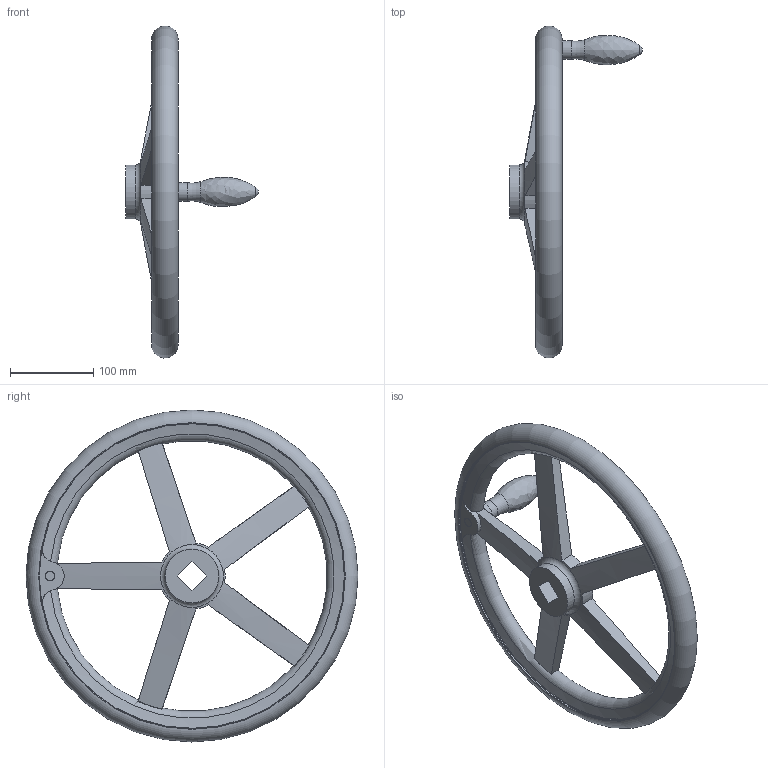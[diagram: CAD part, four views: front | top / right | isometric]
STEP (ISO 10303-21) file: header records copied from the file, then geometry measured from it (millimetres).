
FILE_DESCRIPTION( ( 'STEP AP203' ), '1' );
FILE_NAME( 'C:/Temp/Ganter_Step_05_03_2020/data/1_3/din_950/din_950_v/din_950_v_f/Handwheel DIN 950-AL-400-V24-F.stp', '2020-03-05T10:31:49', ( 'License CC BY-ND 4.0' ), ( 'CADENAS' ), ' ', 'PARTsolutions', ' ' );
FILE_SCHEMA( ( 'CONFIG_CONTROL_DESIGN' ) );
Length unit declared in the file: millimetre
Products named in the file (1): _Handwheel DIN 950-AL-400-V24-F
Bounding box: 159.5 x 399.9 x 399.9 mm (x, y, z)
Volume: 1437937.7 mm3; surface area: 209722.5 mm2
Topology: 1 solids, 1 shells, 62 faces, 184 edges, 119 vertices
Faces by surface type: torus 19, plane 19, cylinder 16, cone 6, sphere 1, bspline 1
Full cylindrical faces by diameter (mm): 22 x1, 65 x2, 368 x2
Entity records: 2535 total; most frequent: CARTESIAN_POINT 1020, ORIENTED_EDGE 314, DIRECTION 272, EDGE_CURVE 157, AXIS2_PLACEMENT_3D 121, VERTEX_POINT 113, EDGE_LOOP 88, FACE_OUTER_BOUND 76
